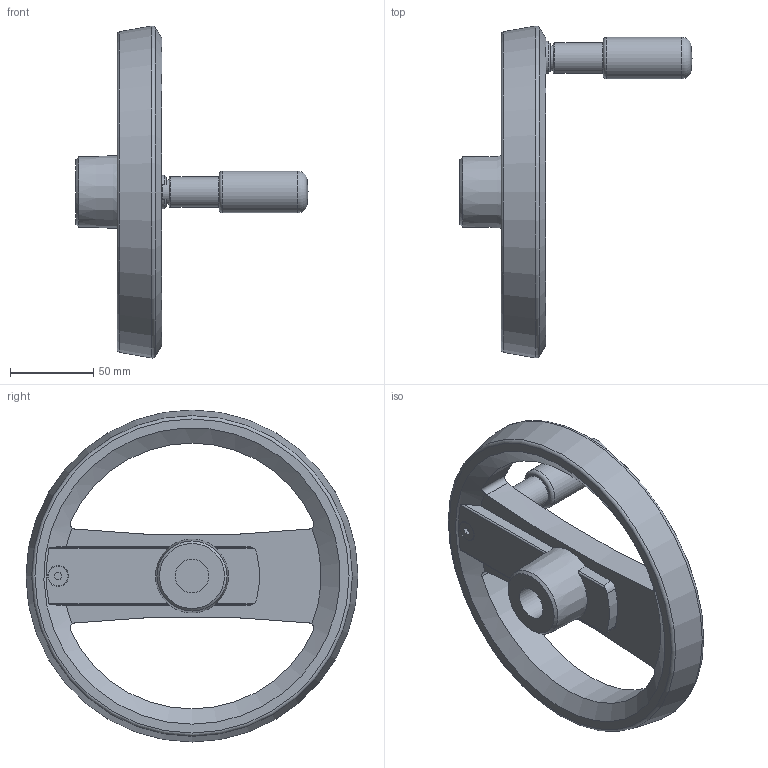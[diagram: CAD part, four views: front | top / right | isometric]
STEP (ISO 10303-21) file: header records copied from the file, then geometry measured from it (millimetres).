
FILE_DESCRIPTION( ( 'STEP AP203' ), '1' );
FILE_NAME( 'C:/Temp/Ganter_Step_05_03_2020/data/1_3/gn_924_7/gn_924_7_b/Handwheel with retractable handle GN 924.7-200-B20-R-SW (activated).stp', '2020-03-05T10:41:46', ( 'License CC BY-ND 4.0' ), ( 'CADENAS' ), ' ', 'PARTsolutions', ' ' );
FILE_SCHEMA( ( 'CONFIG_CONTROL_DESIGN' ) );
Length unit declared in the file: millimetre
Products named in the file (3): Handwheel with retractable handle GN 924.7-200-B20-R-SW (activated); _Umleggriff-Handrad GN 924.7-200-B20-R-SW-1; _Umleggriff-Handrad GN 924.7-200-B20-R-SW (90)-2
Assembly tree (2 placements, depth 2):
  Handwheel with retractable handle GN 924.7-200-B20-R-SW (activated)
    _Umleggriff-Handrad GN 924.7-200-B20-R-SW-1
    _Umleggriff-Handrad GN 924.7-200-B20-R-SW (90)-2
Bounding box: 139.5 x 199.58 x 199.58 mm (x, y, z)
Volume: 415469.4 mm3; surface area: 86032.8 mm2
Topology: 2 solids, 2 shells, 101 faces, 258 edges, 165 vertices
Faces by surface type: plane 41, cylinder 40, cone 10, torus 8, sphere 2
Full cylindrical faces by diameter (mm): 4 x4, 5 x1, 8 x1, 12 x1, 15 x1, 18.5 x1, 20 x2, 25 x2, 26.6 x1
Entity records: 3335 total; most frequent: CARTESIAN_POINT 938, DIRECTION 486, ORIENTED_EDGE 432, EDGE_CURVE 216, AXIS2_PLACEMENT_3D 203, VERTEX_POINT 158, EDGE_LOOP 145, FACE_OUTER_BOUND 122
